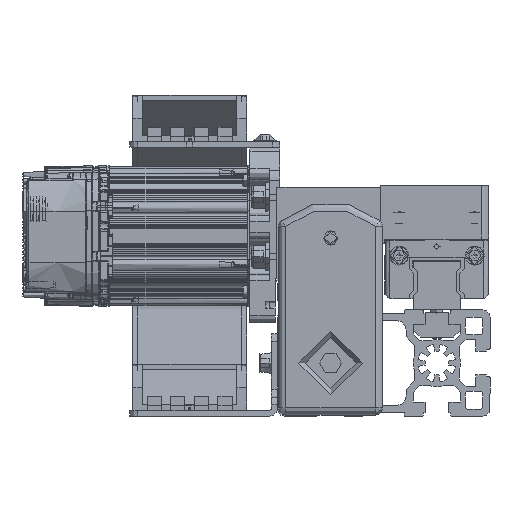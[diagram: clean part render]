
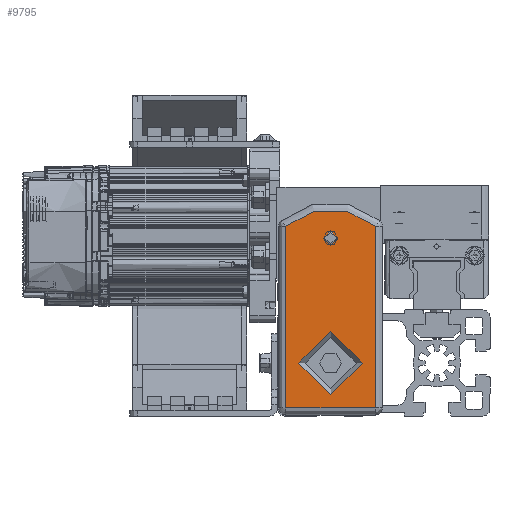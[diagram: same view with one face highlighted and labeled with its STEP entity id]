
A CAD part, front view. The second image highlights one B-rep face of the part: STEP entity #9795.
In plain terms, the highlighted planar face has unit normal (0, -1, 0) as drawn and (1, 0, 0) by its records, which use the part's own axes.
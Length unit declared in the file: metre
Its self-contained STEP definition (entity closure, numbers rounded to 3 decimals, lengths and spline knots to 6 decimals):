
#9795 = ADVANCED_FACE( '', ( #23145, #23146, #23147 ), #23148, .T. );
#23145 = FACE_BOUND( '', #51761, .T. );
#23146 = FACE_OUTER_BOUND( '', #51762, .T. );
#23147 = FACE_BOUND( '', #51763, .T. );
#23148 = PLANE( '', #51764 );
#51761 = EDGE_LOOP( '', ( #126491 ) );
#51762 = EDGE_LOOP( '', ( #126492, #126493, #126494, #126495 ) );
#51763 = EDGE_LOOP( '', ( #126496 ) );
#51764 = AXIS2_PLACEMENT_3D( '', #126497, #126498, #126499 );
#126491 = ORIENTED_EDGE( '', *, *, #169273, .T. );
#126492 = ORIENTED_EDGE( '', *, *, #164727, .T. );
#126493 = ORIENTED_EDGE( '', *, *, #167698, .T. );
#126494 = ORIENTED_EDGE( '', *, *, #169274, .T. );
#126495 = ORIENTED_EDGE( '', *, *, #169275, .T. );
#126496 = ORIENTED_EDGE( '', *, *, #166046, .F. );
#126497 = CARTESIAN_POINT( '', ( 0.00144, -0.022, 0.05928 ) );
#126498 = DIRECTION( '', ( 1., 0., 0. ) );
#126499 = DIRECTION( '', ( 0., 0., -1. ) );
#164727 = EDGE_CURVE( '', #183948, #183953, #183955, .T. );
#166046 = EDGE_CURVE( '', #186325, #186325, #186326, .T. );
#167698 = EDGE_CURVE( '', #183953, #189149, #189151, .T. );
#169273 = EDGE_CURVE( '', #191803, #191803, #191804, .T. );
#169274 = EDGE_CURVE( '', #189149, #191805, #191806, .T. );
#169275 = EDGE_CURVE( '', #191805, #183948, #191807, .T. );
#183948 = VERTEX_POINT( '', #212650 );
#183953 = VERTEX_POINT( '', #212656 );
#183955 = LINE( '', #212658, #212659 );
#186325 = VERTEX_POINT( '', #218932 );
#186326 = CIRCLE( '', #218933, 0.01344 );
#189149 = VERTEX_POINT( '', #225901 );
#189151 = LINE( '', #225903, #225904 );
#191803 = VERTEX_POINT( '', #233076 );
#191804 = CIRCLE( '', #233077, 0.003 );
#191805 = VERTEX_POINT( '', #233078 );
#191806 = CIRCLE( '', #233079, 0.02875 );
#191807 = LINE( '', #233080, #233081 );
#212650 = CARTESIAN_POINT( '', ( 0.00144, -0.019, -0.019 ) );
#212656 = CARTESIAN_POINT( '', ( 0.00144, 0.019, -0.019 ) );
#212658 = CARTESIAN_POINT( '', ( 0.00144, 0.019, -0.019 ) );
#212659 = VECTOR( '', #288362, 1. );
#218932 = CARTESIAN_POINT( '', ( 0.00144, 0., -0.01344 ) );
#218933 = AXIS2_PLACEMENT_3D( '', #290163, #290164, #290165 );
#225901 = CARTESIAN_POINT( '', ( 0.00144, 0.019, 0.057964 ) );
#225903 = CARTESIAN_POINT( '', ( 0.00144, 0.019, 0.057964 ) );
#225904 = VECTOR( '', #292399, 1. );
#233076 = CARTESIAN_POINT( '', ( 0.00144, 0., 0.05593 ) );
#233077 = AXIS2_PLACEMENT_3D( '', #294499, #294500, #294501 );
#233078 = CARTESIAN_POINT( '', ( 0.00144, -0.019, 0.057964 ) );
#233079 = AXIS2_PLACEMENT_3D( '', #294502, #294503, #294504 );
#233080 = CARTESIAN_POINT( '', ( 0.00144, -0.019, -0.019 ) );
#233081 = VECTOR( '', #294505, 1. );
#288362 = DIRECTION( '', ( 0., 1., 0. ) );
#290163 = CARTESIAN_POINT( '', ( 0.00144, 0., 0. ) );
#290164 = DIRECTION( '', ( 1., 0., 0. ) );
#290165 = DIRECTION( '', ( 0., 0., -1. ) );
#292399 = DIRECTION( '', ( 0., 0., 1. ) );
#294499 = CARTESIAN_POINT( '', ( 0.00144, 0., 0.05293 ) );
#294500 = DIRECTION( '', ( -1., 0., 0. ) );
#294501 = DIRECTION( '', ( 0., 0., 1. ) );
#294502 = CARTESIAN_POINT( '', ( 0.00144, 0., 0.036388 ) );
#294503 = DIRECTION( '', ( 1., 0., 0. ) );
#294504 = DIRECTION( '', ( 0., 0., -1. ) );
#294505 = DIRECTION( '', ( 0., 0., -1. ) );
